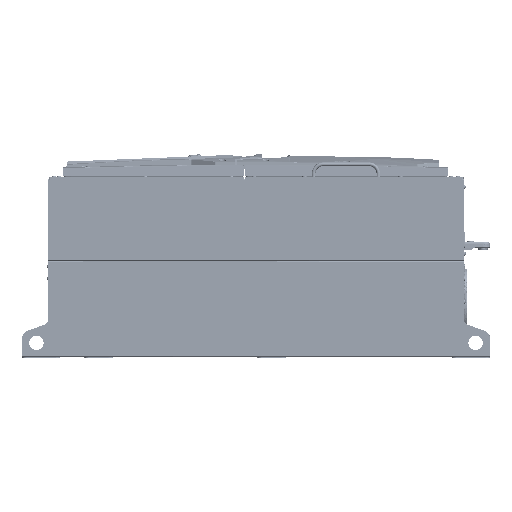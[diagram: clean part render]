
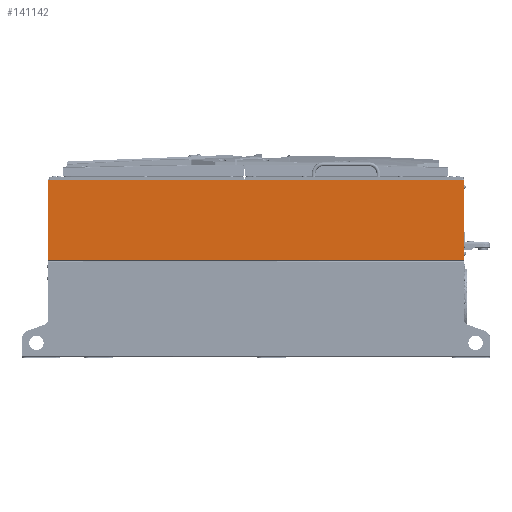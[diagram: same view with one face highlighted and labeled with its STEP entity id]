
A CAD part, left-side view. The second image highlights one B-rep face of the part: STEP entity #141142.
In plain terms, the highlighted planar face has unit normal (-1, 0, 0).
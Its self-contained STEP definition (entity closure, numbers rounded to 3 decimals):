
#2339 = VECTOR ( 'NONE', #77662, 1000. ) ;
#5932 = VERTEX_POINT ( 'NONE', #54464 ) ;
#6118 = EDGE_CURVE ( 'NONE', #199070, #68895, #268008, .T. ) ;
#15133 = VECTOR ( 'NONE', #51614, 1000. ) ;
#15296 = EDGE_LOOP ( 'NONE', ( #103279, #259868, #114202, #242123, #119682, #138307 ) ) ;
#27394 = CARTESIAN_POINT ( 'NONE',  ( -222., 425., 203. ) ) ;
#31359 = AXIS2_PLACEMENT_3D ( 'NONE', #170095, #242058, #171619 ) ;
#33706 = CARTESIAN_POINT ( 'NONE',  ( -222., -434.417, 369.25 ) ) ;
#41485 = EDGE_CURVE ( 'NONE', #5932, #188274, #197769, .T. ) ;
#44007 = EDGE_CURVE ( 'NONE', #181718, #188274, #218943, .T. ) ;
#44013 = CARTESIAN_POINT ( 'NONE',  ( -222., -425.25, 203.75 ) ) ;
#49936 = CARTESIAN_POINT ( 'NONE',  ( -222., -425.25, 203.75 ) ) ;
#51614 = DIRECTION ( 'NONE',  ( 0., 1., 0. ) ) ;
#54464 = CARTESIAN_POINT ( 'NONE',  ( -222., 425., 369.25 ) ) ;
#68895 = VERTEX_POINT ( 'NONE', #192293 ) ;
#77662 = DIRECTION ( 'NONE',  ( 0., 1., 0. ) ) ;
#82148 = CARTESIAN_POINT ( 'NONE',  ( -222., -429.833, 369.25 ) ) ;
#88292 = VERTEX_POINT ( 'NONE', #278211 ) ;
#99613 = EDGE_CURVE ( 'NONE', #199070, #5932, #191989, .T. ) ;
#103279 = ORIENTED_EDGE ( 'NONE', *, *, #6118, .F. ) ;
#103857 = DIRECTION ( 'NONE',  ( 0., 0., -1. ) ) ;
#107986 = B_SPLINE_CURVE_WITH_KNOTS ( 'NONE', 3,
 ( #111328, #256794, #303727, #44013 ),
 .UNSPECIFIED., .F., .F.,
 ( 4, 4 ),
 ( 0., 0.016 ),
 .UNSPECIFIED. ) ;
#111328 = CARTESIAN_POINT ( 'NONE',  ( -222., -439., 203.75 ) ) ;
#114202 = ORIENTED_EDGE ( 'NONE', *, *, #41485, .T. ) ;
#118517 = PLANE ( 'NONE',  #31359 ) ;
#119682 = ORIENTED_EDGE ( 'NONE', *, *, #206882, .F. ) ;
#126045 = CARTESIAN_POINT ( 'NONE',  ( -222., -425.25, 369.25 ) ) ;
#128124 = CARTESIAN_POINT ( 'NONE',  ( -222., 425., 203.75 ) ) ;
#134918 = CARTESIAN_POINT ( 'NONE',  ( -222., -439., 369.25 ) ) ;
#138307 = ORIENTED_EDGE ( 'NONE', *, *, #252313, .F. ) ;
#141142 = ADVANCED_FACE ( 'NONE', ( #220061 ), #118517, .F. ) ;
#170095 = CARTESIAN_POINT ( 'NONE',  ( -222., 0., 203. ) ) ;
#171619 = DIRECTION ( 'NONE',  ( 0., 0., 1. ) ) ;
#181718 = VERTEX_POINT ( 'NONE', #49936 ) ;
#188274 = VERTEX_POINT ( 'NONE', #243897 ) ;
#191989 = LINE ( 'NONE', #263962, #2339 ) ;
#192293 = CARTESIAN_POINT ( 'NONE',  ( -222., -439., 369.25 ) ) ;
#197769 = LINE ( 'NONE', #27394, #199743 ) ;
#199070 = VERTEX_POINT ( 'NONE', #202570 ) ;
#199743 = VECTOR ( 'NONE', #103857, 1000. ) ;
#202570 = CARTESIAN_POINT ( 'NONE',  ( -222., -425.25, 369.25 ) ) ;
#206882 = EDGE_CURVE ( 'NONE', #88292, #181718, #107986, .T. ) ;
#208413 = CARTESIAN_POINT ( 'NONE',  ( -222., -439., 203.75 ) ) ;
#218943 = LINE ( 'NONE', #128124, #15133 ) ;
#220061 = FACE_OUTER_BOUND ( 'NONE', #15296, .T. ) ;
#227250 = CARTESIAN_POINT ( 'NONE',  ( -222., -439., 314.083 ) ) ;
#242058 = DIRECTION ( 'NONE',  ( 1., 0., 0. ) ) ;
#242123 = ORIENTED_EDGE ( 'NONE', *, *, #44007, .F. ) ;
#243897 = CARTESIAN_POINT ( 'NONE',  ( -222., 425., 203.75 ) ) ;
#246511 = CARTESIAN_POINT ( 'NONE',  ( -222., -439., 369.25 ) ) ;
#252270 = CARTESIAN_POINT ( 'NONE',  ( -222., -439., 258.917 ) ) ;
#252313 = EDGE_CURVE ( 'NONE', #68895, #88292, #262628, .T. ) ;
#256794 = CARTESIAN_POINT ( 'NONE',  ( -222., -434.417, 203.75 ) ) ;
#259868 = ORIENTED_EDGE ( 'NONE', *, *, #99613, .T. ) ;
#262628 = B_SPLINE_CURVE_WITH_KNOTS ( 'NONE', 3,
 ( #134918, #227250, #252270, #208413 ),
 .UNSPECIFIED., .F., .F.,
 ( 4, 4 ),
 ( 0., 1. ),
 .UNSPECIFIED. ) ;
#263962 = CARTESIAN_POINT ( 'NONE',  ( -222., -439., 369.25 ) ) ;
#268008 = B_SPLINE_CURVE_WITH_KNOTS ( 'NONE', 3,
 ( #126045, #82148, #33706, #246511 ),
 .UNSPECIFIED., .F., .F.,
 ( 4, 4 ),
 ( 0.984, 1. ),
 .UNSPECIFIED. ) ;
#278211 = CARTESIAN_POINT ( 'NONE',  ( -222., -439., 203.75 ) ) ;
#303727 = CARTESIAN_POINT ( 'NONE',  ( -222., -429.833, 203.75 ) ) ;
